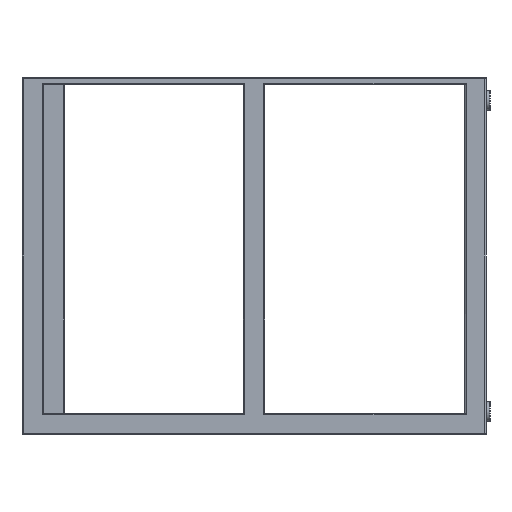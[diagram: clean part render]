
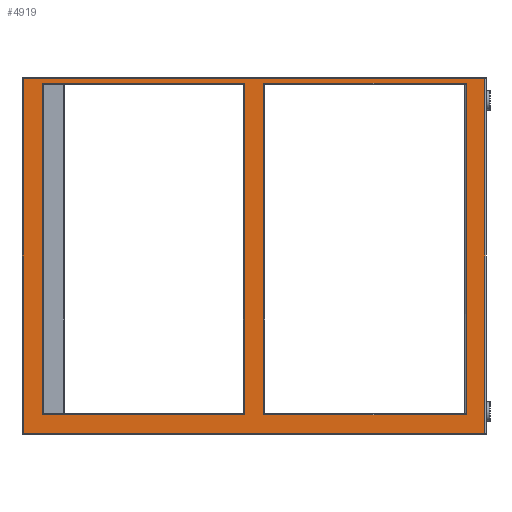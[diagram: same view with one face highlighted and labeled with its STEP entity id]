
A CAD part, left-side view. The second image highlights one B-rep face of the part: STEP entity #4919.
In plain terms, the highlighted planar face has unit normal (-1, 0, 0).
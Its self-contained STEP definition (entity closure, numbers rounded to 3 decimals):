
#83=FACE_BOUND('',#731,.T.);
#84=FACE_BOUND('',#732,.T.);
#117=PLANE('',#5341);
#421=FACE_OUTER_BOUND('',#730,.T.);
#730=EDGE_LOOP('',(#3684,#3685,#3686,#3687));
#731=EDGE_LOOP('',(#3688,#3689,#3690,#3691));
#732=EDGE_LOOP('',(#3692,#3693,#3694,#3695));
#1198=LINE('',#7471,#1791);
#1200=LINE('',#7480,#1793);
#1201=LINE('',#7483,#1794);
#1203=LINE('',#7486,#1796);
#1210=LINE('',#7500,#1803);
#1211=LINE('',#7502,#1804);
#1212=LINE('',#7504,#1805);
#1213=LINE('',#7505,#1806);
#1214=LINE('',#7508,#1807);
#1215=LINE('',#7510,#1808);
#1216=LINE('',#7512,#1809);
#1217=LINE('',#7513,#1810);
#1791=VECTOR('',#5999,10.);
#1793=VECTOR('',#6009,10.);
#1794=VECTOR('',#6014,10.);
#1796=VECTOR('',#6018,10.);
#1803=VECTOR('',#6029,10.);
#1804=VECTOR('',#6030,10.);
#1805=VECTOR('',#6031,10.);
#1806=VECTOR('',#6032,10.);
#1807=VECTOR('',#6033,10.);
#1808=VECTOR('',#6034,10.);
#1809=VECTOR('',#6035,10.);
#1810=VECTOR('',#6036,10.);
#2370=VERTEX_POINT('',#7469);
#2371=VERTEX_POINT('',#7470);
#2373=VERTEX_POINT('',#7477);
#2374=VERTEX_POINT('',#7479);
#2378=VERTEX_POINT('',#7498);
#2379=VERTEX_POINT('',#7499);
#2380=VERTEX_POINT('',#7501);
#2381=VERTEX_POINT('',#7503);
#2382=VERTEX_POINT('',#7506);
#2383=VERTEX_POINT('',#7507);
#2384=VERTEX_POINT('',#7509);
#2385=VERTEX_POINT('',#7511);
#2862=EDGE_CURVE('',#2370,#2371,#1198,.T.);
#2867=EDGE_CURVE('',#2373,#2374,#1200,.T.);
#2869=EDGE_CURVE('',#2371,#2373,#1201,.T.);
#2871=EDGE_CURVE('',#2374,#2370,#1203,.T.);
#2878=EDGE_CURVE('',#2378,#2379,#1210,.T.);
#2879=EDGE_CURVE('',#2380,#2378,#1211,.T.);
#2880=EDGE_CURVE('',#2381,#2380,#1212,.T.);
#2881=EDGE_CURVE('',#2379,#2381,#1213,.T.);
#2882=EDGE_CURVE('',#2382,#2383,#1214,.T.);
#2883=EDGE_CURVE('',#2384,#2382,#1215,.T.);
#2884=EDGE_CURVE('',#2385,#2384,#1216,.T.);
#2885=EDGE_CURVE('',#2383,#2385,#1217,.T.);
#3684=ORIENTED_EDGE('',*,*,#2878,.F.);
#3685=ORIENTED_EDGE('',*,*,#2879,.F.);
#3686=ORIENTED_EDGE('',*,*,#2880,.F.);
#3687=ORIENTED_EDGE('',*,*,#2881,.F.);
#3688=ORIENTED_EDGE('',*,*,#2882,.F.);
#3689=ORIENTED_EDGE('',*,*,#2883,.F.);
#3690=ORIENTED_EDGE('',*,*,#2884,.F.);
#3691=ORIENTED_EDGE('',*,*,#2885,.F.);
#3692=ORIENTED_EDGE('',*,*,#2867,.F.);
#3693=ORIENTED_EDGE('',*,*,#2869,.F.);
#3694=ORIENTED_EDGE('',*,*,#2862,.F.);
#3695=ORIENTED_EDGE('',*,*,#2871,.F.);
#4919=ADVANCED_FACE('',(#421,#83,#84),#117,.T.);
#5341=AXIS2_PLACEMENT_3D('',#7497,#6027,#6028);
#5999=DIRECTION('',(0.,-1.,0.));
#6009=DIRECTION('',(0.,1.,0.));
#6014=DIRECTION('',(0.,0.,1.));
#6018=DIRECTION('',(0.,0.,-1.));
#6027=DIRECTION('center_axis',(-1.,0.,0.));
#6028=DIRECTION('ref_axis',(0.,0.,1.));
#6029=DIRECTION('',(0.,-1.,0.));
#6030=DIRECTION('',(0.,0.,1.));
#6031=DIRECTION('',(0.,1.,0.));
#6032=DIRECTION('',(0.,0.,-1.));
#6033=DIRECTION('',(0.,0.,1.));
#6034=DIRECTION('',(0.,-1.,0.));
#6035=DIRECTION('',(0.,0.,-1.));
#6036=DIRECTION('',(0.,1.,0.));
#7469=CARTESIAN_POINT('',(-502.,622.,-222.));
#7470=CARTESIAN_POINT('',(-502.,338.,-222.));
#7471=CARTESIAN_POINT('',(-502.,15.,-222.));
#7477=CARTESIAN_POINT('',(-502.,338.,242.));
#7479=CARTESIAN_POINT('',(-502.,622.,242.));
#7480=CARTESIAN_POINT('',(-502.,15.,242.));
#7483=CARTESIAN_POINT('',(-502.,338.,-125.));
#7486=CARTESIAN_POINT('',(-502.,622.,-125.));
#7497=CARTESIAN_POINT('Origin',(-502.,0.,-250.));
#7498=CARTESIAN_POINT('',(-502.,648.,248.));
#7499=CARTESIAN_POINT('',(-502.,2.,248.));
#7500=CARTESIAN_POINT('',(-502.,0.,248.));
#7501=CARTESIAN_POINT('',(-502.,648.,-248.));
#7502=CARTESIAN_POINT('',(-502.,648.,-2.5));
#7503=CARTESIAN_POINT('',(-502.,2.,-248.));
#7504=CARTESIAN_POINT('',(-502.,0.,-248.));
#7505=CARTESIAN_POINT('',(-502.,2.,-125.));
#7506=CARTESIAN_POINT('',(-502.,28.,-222.));
#7507=CARTESIAN_POINT('',(-502.,28.,242.));
#7508=CARTESIAN_POINT('',(-502.,28.,-125.));
#7509=CARTESIAN_POINT('',(-502.,312.,-222.));
#7510=CARTESIAN_POINT('',(-502.,15.,-222.));
#7511=CARTESIAN_POINT('',(-502.,312.,242.));
#7512=CARTESIAN_POINT('',(-502.,312.,-125.));
#7513=CARTESIAN_POINT('',(-502.,15.,242.));
